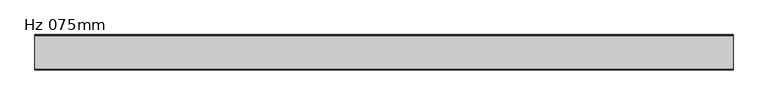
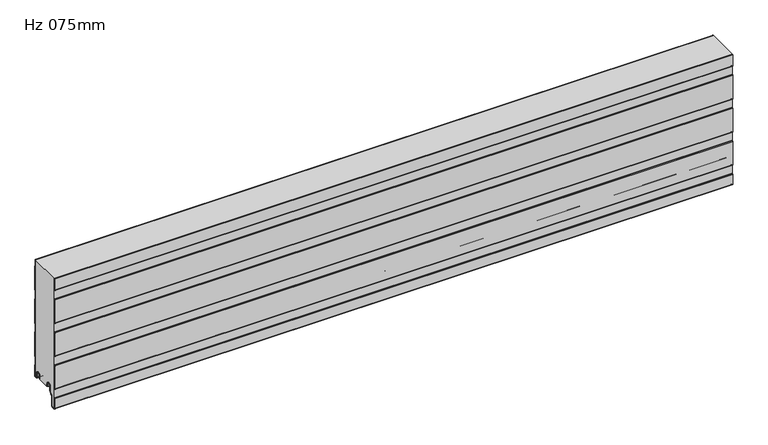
"""IFC4 building model written with IfcOpenShell, lengths in millimetres: plate geometry, KIP-MEX-KSS-1067-R19-CP-Hz-SL_SL : Hz 075mm."""

from ifc_helpers import new_model, si_unit, point, frame, frame_2d, origin, place, context, project, spatial, polyline, circle_curve, trimmed, segment, composite_curve, outline, extrude, source, transform, mapped, element, save
from ifc_brep_helpers import plane_surface, cylinder_surface, revolved_surface, advanced_brep


def hz_075mm_a357266a(model_context):
    return source(origin(), model_context, "Body", "SolidModel", [
        advanced_brep(
        [(-740.0, -17.0015159, 2.0313088), (-740.0, -18.0015191, 1.0313116), (-740.0, -19.0015105, 2.0313088), (-740.0, -19.0015105, 6.0315125), (-740.0, -18.0015159, 6.0315125), (-740.0, -18.0015159, 8.7237223), (-740.0, -14.7015202, 12.023718), (-740.0, -10.301529, 12.023718), (-740.0, -7.0015335, 8.7237225), (-740.0, -7.0015335, -1.6962564), (-740.0, -5.2315393, -3.4662506), (-740.0, -0.9999916, -3.4662506), (-740.0, -0.9999916, 21.034026), (-740.0, -2.2002307, 22.4196686), (-740.0, -2.2002307, 41.7948349), (-740.0, -1.0, 43.1804679), (-740.0, -1.0, 97.2338833), (-740.0, -2.2002307, 98.6195162), (-740.0, -2.2002307, 117.9946825), (-740.0, -1.0, 119.3803155), (-740.0, -1.0, 173.4337309), (-740.0, -2.2002307, 174.8193638), (-740.0, -2.2002307, 194.1945301), (-740.0, -1.0, 195.5801631), (-740.0, -1.0, 249.6335785), (-740.0, -2.2002307, 251.0192114), (-740.0, -2.2002307, 266.0), (-740.0, -1.2002307, 266.0), (-740.0, -1.2002307, 251.3920919), (-740.0, -0.3417885, 250.4010442), (-740.0, 0.0, 249.4844273), (-740.0, 0.0, 195.7293142), (-740.0, -0.3417885, 194.8126973), (-740.0, -1.2002307, 193.8216497), (-740.0, -1.2002307, 175.1922443), (-740.0, -0.3417885, 174.2011966), (-740.0, 0.0, 173.2845797), (-740.0, 0.0, 119.5294666), (-740.0, -0.3417885, 118.6128497), (-740.0, -1.2002307, 117.6218021), (-740.0, -1.2002307, 98.9923967), (-740.0, -0.3417885, 98.001349), (-740.0, 0.0, 97.0847321), (-740.0, 0.0, 43.329619), (-740.0, -0.3417885, 42.4130021), (-740.0, -1.2002307, 41.4219545), (-740.0, -1.2002307, 22.7925491), (-740.0, -0.3417885, 21.8015014), (-740.0, 0.0, 20.8847931), (-740.0, 8.4e-06, -3.0662545), (-740.0, -1.3999878, -4.4662506), (-740.0, -5.2315393, -4.4662506), (-740.0, -8.0015335, -1.6962564), (-740.0, -8.0015335, 8.7237225), (-740.0, -10.301529, 11.023718), (-740.0, -14.7015202, 11.023718), (-740.0, -17.0015159, 8.7237223), (740.0, -17.0015159, 2.0313088), (740.0, -17.0015159, 8.7237223), (740.0, -14.7015202, 11.023718), (740.0, -10.301529, 11.023718), (740.0, -8.0015335, 8.7237225), (740.0, -8.0015335, -1.6962564), (740.0, -5.2315393, -4.4662506), (740.0, -1.3999878, -4.4662506), (740.0, 8.4e-06, -3.0662545), (740.0, 8.4e-06, 20.8848845), (740.0, -0.3417885, 21.8015014), (740.0, -1.2002307, 22.7925491), (740.0, -1.2002307, 41.4219545), (740.0, -0.3417885, 42.4130021), (740.0, 0.0, 43.329619), (740.0, 0.0, 97.0847321), (740.0, -0.3417885, 98.001349), (740.0, -1.2002307, 98.9923967), (740.0, -1.2002307, 117.6218021), (740.0, -0.3417885, 118.6128497), (740.0, 0.0, 119.5294666), (740.0, 0.0, 173.2845797), (740.0, -0.3417885, 174.2011966), (740.0, -1.2002307, 175.1922443), (740.0, -1.2002307, 193.8216497), (740.0, -0.3417885, 194.8126973), (740.0, 0.0, 195.7293142), (740.0, 0.0, 249.4844273), (740.0, -0.3417885, 250.4010442), (740.0, -1.2002307, 251.3920919), (740.0, -1.2002307, 266.0), (740.0, -2.2002307, 266.0), (740.0, -2.2002307, 251.0192114), (740.0, -1.0, 249.6335785), (740.0, -1.0, 195.5801631), (740.0, -2.2002307, 194.1945301), (740.0, -2.2002307, 174.8193638), (740.0, -1.0, 173.4337309), (740.0, -1.0, 119.3803155), (740.0, -2.2002307, 117.9946825), (740.0, -2.2002307, 98.6195162), (740.0, -1.0, 97.2338833), (740.0, -1.0, 43.1804679), (740.0, -2.2002307, 41.7948349), (740.0, -2.2002307, 22.4196686), (740.0, -0.9999916, 21.034026), (740.0, -0.9999916, -3.4662506), (740.0, -5.2315393, -3.4662506), (740.0, -7.0015335, -1.6962564), (740.0, -7.0015335, 8.7237225), (740.0, -10.301529, 12.023718), (740.0, -14.7015202, 12.023718), (740.0, -18.0015159, 8.7237223), (740.0, -18.0015159, 6.0315125), (740.0, -19.0015105, 6.0315125), (740.0, -19.0015105, 2.0313088), (740.0, -18.0015192, 1.0313116)],
        [
            (0, 1, circle_curve(frame((-740.0, -18.0015132, 2.0313088), z_axis=(-1.0, 0.0, 0.0), x_axis=(0.0, 0.0, 1.0)), 0.9999973)),
            (1, 2, circle_curve(frame((-740.0, -18.0015133, 2.0313088), z_axis=(-1.0, 0.0, 0.0), x_axis=(0.0, 0.0, 1.0)), 0.9999972)),
            (2, 3),
            (3, 4),
            (4, 5),
            (5, 6, circle_curve(frame((-740.0, -14.7015202, 8.7237223), z_axis=(-1.0, 0.0, 0.0), x_axis=(0.0, 0.0, 1.0)), 3.2999957)),
            (6, 7),
            (7, 8, circle_curve(frame((-740.0, -10.301529, 8.7237225), z_axis=(-1.0, 0.0, 0.0), x_axis=(0.0, 0.0, 1.0)), 3.2999955)),
            (8, 9),
            (9, 10, circle_curve(frame((-740.0, -5.2315393, -1.6962564), z_axis=(1.0, 0.0, 0.0), x_axis=(0.0, 0.0, 1.0)), 1.7699942)),
            (10, 11),
            (11, 12),
            (12, 13),
            (13, 14),
            (14, 15),
            (15, 16),
            (16, 17),
            (17, 18),
            (18, 19),
            (19, 20),
            (20, 21),
            (21, 22),
            (22, 23),
            (23, 24),
            (24, 25),
            (25, 26),
            (26, 27),
            (27, 28),
            (28, 29),
            (29, 30, circle_curve(frame((-740.0, -1.3999972, 249.4844273), z_axis=(-1.0, 0.0, 0.0), x_axis=(0.0, 0.0, 1.0)), 1.3999972)),
            (30, 31),
            (31, 32, circle_curve(frame((-740.0, -1.3999972, 195.7293142), z_axis=(-1.0, 0.0, 0.0), x_axis=(0.0, 0.0, 1.0)), 1.3999972)),
            (32, 33),
            (33, 34),
            (34, 35),
            (35, 36, circle_curve(frame((-740.0, -1.3999972, 173.2845797), z_axis=(-1.0, 0.0, 0.0), x_axis=(0.0, 0.0, 1.0)), 1.3999972)),
            (36, 37),
            (37, 38, circle_curve(frame((-740.0, -1.3999972, 119.5294666), z_axis=(-1.0, 0.0, 0.0), x_axis=(0.0, 0.0, 1.0)), 1.3999972)),
            (38, 39),
            (39, 40),
            (40, 41),
            (41, 42, circle_curve(frame((-740.0, -1.3999972, 97.0847321), z_axis=(-1.0, 0.0, 0.0), x_axis=(0.0, 0.0, 1.0)), 1.3999972)),
            (42, 43),
            (43, 44, circle_curve(frame((-740.0, -1.3999972, 43.329619), z_axis=(-1.0, 0.0, 0.0), x_axis=(0.0, 0.0, 1.0)), 1.3999972)),
            (44, 45),
            (45, 46),
            (46, 47),
            (47, 48, circle_curve(frame((-740.0, -1.3999972, 20.8848845), z_axis=(-1.0, 0.0, 0.0), x_axis=(0.0, 0.0, 1.0)), 1.3999972)),
            (48, 49),
            (49, 50, circle_curve(frame((-740.0, -1.3999878, -3.0662545), z_axis=(-1.0, 0.0, 0.0), x_axis=(0.0, 0.0, 1.0)), 1.3999962)),
            (50, 51),
            (51, 52, circle_curve(frame((-740.0, -5.2315393, -1.6962564), z_axis=(-1.0, 0.0, 0.0), x_axis=(0.0, 0.0, 1.0)), 2.7699942)),
            (52, 53),
            (53, 54, circle_curve(frame((-740.0, -10.301529, 8.7237225), z_axis=(1.0, 0.0, 0.0), x_axis=(0.0, 0.0, 1.0)), 2.2999955)),
            (54, 55),
            (55, 56, circle_curve(frame((-740.0, -14.7015202, 8.7237223), z_axis=(1.0, 0.0, 0.0), x_axis=(0.0, 0.0, 1.0)), 2.2999957)),
            (56, 0),
            (57, 58),
            (58, 59, circle_curve(frame((740.0, -14.7015202, 8.7237223), z_axis=(-1.0, 0.0, 0.0), x_axis=(0.0, 0.0, 1.0)), 2.2999957)),
            (59, 60),
            (60, 61, circle_curve(frame((740.0, -10.301529, 8.7237225), z_axis=(-1.0, 0.0, 0.0), x_axis=(0.0, 0.0, 1.0)), 2.2999955)),
            (61, 62),
            (62, 63, circle_curve(frame((740.0, -5.2315393, -1.6962564), z_axis=(1.0, 0.0, 0.0), x_axis=(0.0, 0.0, 1.0)), 2.7699942)),
            (63, 64),
            (64, 65, circle_curve(frame((740.0, -1.3999878, -3.0662545), z_axis=(1.0, 0.0, 0.0), x_axis=(0.0, 0.0, 1.0)), 1.3999962)),
            (65, 66),
            (66, 67, circle_curve(frame((740.0, -1.3999972, 20.8848845), z_axis=(1.0, 0.0, 0.0), x_axis=(0.0, 0.0, 1.0)), 1.3999972)),
            (67, 68),
            (68, 69),
            (69, 70),
            (70, 71, circle_curve(frame((740.0, -1.3999972, 43.329619), z_axis=(1.0, 0.0, 0.0), x_axis=(0.0, 0.0, 1.0)), 1.3999972)),
            (71, 72),
            (72, 73, circle_curve(frame((740.0, -1.3999972, 97.0847321), z_axis=(1.0, 0.0, 0.0), x_axis=(0.0, 0.0, 1.0)), 1.3999972)),
            (73, 74),
            (74, 75),
            (75, 76),
            (76, 77, circle_curve(frame((740.0, -1.3999972, 119.5294666), z_axis=(1.0, 0.0, 0.0), x_axis=(0.0, 0.0, 1.0)), 1.3999972)),
            (77, 78),
            (78, 79, circle_curve(frame((740.0, -1.3999972, 173.2845797), z_axis=(1.0, 0.0, 0.0), x_axis=(0.0, 0.0, 1.0)), 1.3999972)),
            (79, 80),
            (80, 81),
            (81, 82),
            (82, 83, circle_curve(frame((740.0, -1.3999972, 195.7293142), z_axis=(1.0, 0.0, 0.0), x_axis=(0.0, 0.0, 1.0)), 1.3999972)),
            (83, 84),
            (84, 85, circle_curve(frame((740.0, -1.3999972, 249.4844273), z_axis=(1.0, 0.0, 0.0), x_axis=(0.0, 0.0, 1.0)), 1.3999972)),
            (85, 86),
            (86, 87),
            (87, 88),
            (88, 89),
            (89, 90),
            (90, 91),
            (91, 92),
            (92, 93),
            (93, 94),
            (94, 95),
            (95, 96),
            (96, 97),
            (97, 98),
            (98, 99),
            (99, 100),
            (100, 101),
            (101, 102),
            (102, 103),
            (103, 104),
            (104, 105, circle_curve(frame((740.0, -5.2315393, -1.6962564), z_axis=(-1.0, 0.0, 0.0), x_axis=(0.0, 0.0, 1.0)), 1.7699942)),
            (105, 106),
            (106, 107, circle_curve(frame((740.0, -10.301529, 8.7237225), z_axis=(1.0, 0.0, 0.0), x_axis=(0.0, 0.0, 1.0)), 3.2999955)),
            (107, 108),
            (108, 109, circle_curve(frame((740.0, -14.7015202, 8.7237223), z_axis=(1.0, 0.0, 0.0), x_axis=(0.0, 0.0, 1.0)), 3.2999957)),
            (109, 110),
            (110, 111),
            (111, 112),
            (112, 113, circle_curve(frame((740.0, -18.0015133, 2.0313088), z_axis=(1.0, 0.0, 0.0), x_axis=(0.0, 0.0, 1.0)), 0.9999972)),
            (113, 57, circle_curve(frame((740.0, -18.0015132, 2.0313088), z_axis=(1.0, 0.0, 0.0), x_axis=(0.0, 0.0, 1.0)), 0.9999973)),
            (56, 58),
            (57, 0),
            (55, 59),
            (54, 60),
            (53, 61),
            (52, 62),
            (51, 63),
            (50, 64),
            (49, 65),
            (48, 66),
            (47, 67),
            (46, 68),
            (45, 69),
            (44, 70),
            (43, 71),
            (42, 72),
            (41, 73),
            (40, 74),
            (39, 75),
            (38, 76),
            (37, 77),
            (36, 78),
            (35, 79),
            (34, 80),
            (33, 81),
            (32, 82),
            (31, 83),
            (30, 84),
            (29, 85),
            (28, 86),
            (27, 87),
            (88, 26),
            (25, 89),
            (24, 90),
            (23, 91),
            (22, 92),
            (21, 93),
            (20, 94),
            (19, 95),
            (18, 96),
            (17, 97),
            (16, 98),
            (15, 99),
            (14, 100),
            (13, 101),
            (12, 102),
            (11, 103),
            (10, 104),
            (9, 105),
            (8, 106),
            (7, 107),
            (6, 108),
            (5, 109),
            (4, 110),
            (3, 111),
            (2, 112),
            (1, 113),
        ],
        [
            plane_surface(frame((-740.0, 0.0, 533.4), z_axis=(-1.0, 0.0, 0.0), x_axis=(0.0, 1.0, 0.0))),
            plane_surface(frame((740.0, 0.0, 533.4), z_axis=(1.0, 0.0, 0.0), x_axis=(0.0, 1.0, 0.0))),
            plane_surface(frame((-740.0, -17.0015159, 2.0313088), z_axis=(0.0, 1.0, 0.0), x_axis=(1.0, 0.0, 0.0))),
            revolved_surface(polyline([(740.0, -14.7015202, 11.023718), (-740.0, -14.7015202, 11.023718)]), (-740.0, -14.7015202, 8.7237223), (1.0, 0.0, 0.0)),
            plane_surface(frame((-740.0, -14.7015202, 11.023718), z_axis=(0.0, 0.0, -1.0), x_axis=(1.0, 0.0, 0.0))),
            revolved_surface(polyline([(740.0, -10.301529, 11.023717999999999), (-740.0, -10.301529, 11.023717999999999)]), (-740.0, -10.301529, 8.7237225), (1.0, 0.0, 0.0)),
            plane_surface(frame((-740.0, -8.0015335, 8.7237225), z_axis=(0.0, -1.0, 0.0), x_axis=(1.0, 0.0, 0.0))),
            cylinder_surface(frame((-740.0, -5.2315393, -1.6962564), z_axis=(-1.0, 0.0, 0.0), x_axis=(0.0, 0.0, 1.0)), 2.7699942),
            plane_surface(frame((-740.0, -5.2315393, -4.4662506), z_axis=(0.0, 0.0, -1.0), x_axis=(1.0, 0.0, 0.0))),
            cylinder_surface(frame((-740.0, -1.3999878, -3.0662545), z_axis=(-1.0, 0.0, 0.0), x_axis=(0.0, 0.0, 1.0)), 1.3999962),
            plane_surface(frame((-740.0, 8.4e-06, -3.0662545), z_axis=(0.0, 1.0, 0.0), x_axis=(1.0, 0.0, 0.0))),
            cylinder_surface(frame((-740.0, -1.3999972, 20.8848845), z_axis=(-1.0, 0.0, 0.0), x_axis=(0.0, 0.0, 1.0)), 1.3999972),
            plane_surface(frame((-740.0, -0.3417885, 21.8015014), z_axis=(0.0, 0.755864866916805, 0.6547276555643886), x_axis=(1.0, 0.0, 0.0))),
            plane_surface(frame((-740.0, -1.2002307, 32.1072518), z_axis=(0.0, 1.0, 0.0), x_axis=(1.0, 0.0, 0.0))),
            plane_surface(frame((-740.0, -1.2002307, 41.4219545), z_axis=(0.0, 0.755864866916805, -0.6547276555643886), x_axis=(1.0, 0.0, 0.0))),
            cylinder_surface(frame((-740.0, -1.3999972, 43.329619), z_axis=(-1.0, 0.0, 0.0), x_axis=(0.0, 0.0, 1.0)), 1.3999972),
            plane_surface(frame((-740.0, 0.0, 43.329619), z_axis=(0.0, 1.0, 0.0), x_axis=(1.0, 0.0, 0.0))),
            cylinder_surface(frame((-740.0, -1.3999972, 97.0847321), z_axis=(-1.0, 0.0, 0.0), x_axis=(0.0, 0.0, 1.0)), 1.3999972),
            plane_surface(frame((-740.0, -0.3417885, 98.001349), z_axis=(0.0, 0.755864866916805, 0.6547276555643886), x_axis=(1.0, 0.0, 0.0))),
            plane_surface(frame((-740.0, -1.2002307, 108.3070994), z_axis=(0.0, 1.0, 0.0), x_axis=(1.0, 0.0, 0.0))),
            plane_surface(frame((-740.0, -1.2002307, 117.6218021), z_axis=(0.0, 0.755864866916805, -0.6547276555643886), x_axis=(1.0, 0.0, 0.0))),
            cylinder_surface(frame((-740.0, -1.3999972, 119.5294666), z_axis=(-1.0, 0.0, 0.0), x_axis=(0.0, 0.0, 1.0)), 1.3999972),
            plane_surface(frame((-740.0, 0.0, 119.5294666), z_axis=(0.0, 1.0, 0.0), x_axis=(1.0, 0.0, 0.0))),
            cylinder_surface(frame((-740.0, -1.3999972, 173.2845797), z_axis=(-1.0, 0.0, 0.0), x_axis=(0.0, 0.0, 1.0)), 1.3999972),
            plane_surface(frame((-740.0, -0.3417885, 174.2011966), z_axis=(0.0, 0.755864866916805, 0.6547276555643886), x_axis=(1.0, 0.0, 0.0))),
            plane_surface(frame((-740.0, -1.2002307, 184.506947), z_axis=(0.0, 1.0, 0.0), x_axis=(1.0, 0.0, 0.0))),
            plane_surface(frame((-740.0, -1.2002307, 193.8216497), z_axis=(0.0, 0.755864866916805, -0.6547276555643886), x_axis=(1.0, 0.0, 0.0))),
            cylinder_surface(frame((-740.0, -1.3999972, 195.7293142), z_axis=(-1.0, 0.0, 0.0), x_axis=(0.0, 0.0, 1.0)), 1.3999972),
            plane_surface(frame((-740.0, 0.0, 195.7293142), z_axis=(0.0, 1.0, 0.0), x_axis=(1.0, 0.0, 0.0))),
            cylinder_surface(frame((-740.0, -1.3999972, 249.4844273), z_axis=(-1.0, 0.0, 0.0), x_axis=(0.0, 0.0, 1.0)), 1.3999972),
            plane_surface(frame((-740.0, -0.3417885, 250.4010442), z_axis=(0.0, 0.755864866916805, 0.6547276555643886), x_axis=(1.0, 0.0, 0.0))),
            plane_surface(frame((-740.0, -1.2002307, 260.7067946), z_axis=(0.0, 1.0, 0.0), x_axis=(1.0, 0.0, 0.0))),
            plane_surface(frame((-740.0, -2.2002307, 270.3943777), z_axis=(0.0, -1.0, 0.0), x_axis=(1.0, 0.0, 0.0))),
            plane_surface(frame((-740.0, -2.2002307, 251.0192114), z_axis=(0.0, -0.755864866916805, -0.6547276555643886), x_axis=(1.0, 0.0, 0.0))),
            plane_surface(frame((-740.0, -1.0, 249.6335785), z_axis=(0.0, -1.0, 0.0), x_axis=(1.0, 0.0, 0.0))),
            plane_surface(frame((-740.0, -1.0, 195.5801631), z_axis=(0.0, -0.755864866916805, 0.6547276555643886), x_axis=(1.0, 0.0, 0.0))),
            plane_surface(frame((-740.0, -2.2002307, 194.1945301), z_axis=(0.0, -1.0, 0.0), x_axis=(1.0, 0.0, 0.0))),
            plane_surface(frame((-740.0, -2.2002307, 174.8193638), z_axis=(0.0, -0.755864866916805, -0.6547276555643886), x_axis=(1.0, 0.0, 0.0))),
            plane_surface(frame((-740.0, -1.0, 173.4337309), z_axis=(0.0, -1.0, 0.0), x_axis=(1.0, 0.0, 0.0))),
            plane_surface(frame((-740.0, -1.0, 119.3803155), z_axis=(0.0, -0.755864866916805, 0.6547276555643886), x_axis=(1.0, 0.0, 0.0))),
            plane_surface(frame((-740.0, -2.2002307, 117.9946825), z_axis=(0.0, -1.0, 0.0), x_axis=(1.0, 0.0, 0.0))),
            plane_surface(frame((-740.0, -2.2002307, 98.6195162), z_axis=(0.0, -0.755864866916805, -0.6547276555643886), x_axis=(1.0, 0.0, 0.0))),
            plane_surface(frame((-740.0, -1.0, 97.2338833), z_axis=(0.0, -1.0, 0.0), x_axis=(1.0, 0.0, 0.0))),
            plane_surface(frame((-740.0, -1.0, 43.1804679), z_axis=(0.0, -0.755864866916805, 0.6547276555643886), x_axis=(1.0, 0.0, 0.0))),
            plane_surface(frame((-740.0, -2.2002307, 41.7948349), z_axis=(0.0, -1.0, 0.0), x_axis=(1.0, 0.0, 0.0))),
            plane_surface(frame((-740.0, -2.2002307, 22.4196686), z_axis=(0.0, -0.755864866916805, -0.6547276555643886), x_axis=(1.0, 0.0, 0.0))),
            plane_surface(frame((-740.0, -0.9999916, 21.034026), z_axis=(0.0, -1.0, 0.0), x_axis=(1.0, 0.0, 0.0))),
            plane_surface(frame((-740.0, -0.9999916, -3.4662506), z_axis=(0.0, 0.0, 1.0), x_axis=(1.0, 0.0, 0.0))),
            revolved_surface(polyline([(740.0, -5.2315393, 0.07373779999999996), (-740.0, -5.2315393, 0.07373779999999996)]), (-740.0, -5.2315393, -1.6962564), (1.0, 0.0, 0.0)),
            plane_surface(frame((-740.0, -7.0015335, -1.6962564), z_axis=(0.0, 1.0, 0.0), x_axis=(1.0, 0.0, 0.0))),
            cylinder_surface(frame((-740.0, -10.301529, 8.7237225), z_axis=(-1.0, 0.0, 0.0), x_axis=(0.0, 0.0, 1.0)), 3.2999955),
            plane_surface(frame((-740.0, -10.301529, 12.023718), z_axis=(0.0, 0.0, 1.0), x_axis=(1.0, 0.0, 0.0))),
            cylinder_surface(frame((-740.0, -14.7015202, 8.7237223), z_axis=(-1.0, 0.0, 0.0), x_axis=(0.0, 0.0, 1.0)), 3.2999957),
            plane_surface(frame((-740.0, -18.0015159, 8.7237223), z_axis=(0.0, -1.0, 0.0), x_axis=(1.0, 0.0, 0.0))),
            plane_surface(frame((-740.0, -18.0015159, 6.0315125), z_axis=(0.0, 0.0, 1.0), x_axis=(1.0, 0.0, 0.0))),
            plane_surface(frame((-740.0, -19.0015105, 6.0315125), z_axis=(0.0, -1.0, 0.0), x_axis=(1.0, 0.0, 0.0))),
            cylinder_surface(frame((-740.0, -18.0015133, 2.0313088), z_axis=(-1.0, 0.0, 0.0), x_axis=(0.0, 0.0, 1.0)), 0.9999972),
            cylinder_surface(frame((-740.0, -18.0015132, 2.0313088), z_axis=(-1.0, 0.0, 0.0), x_axis=(0.0, 0.0, 1.0)), 0.9999973),
            plane_surface(frame((740.0, 10.0, 266.0), z_axis=(0.0, 0.0, 1.0), x_axis=(-1.0, 0.0, 0.0))),
        ],
        [
            (0, [[1, 2, 3, 4, 5, 6, 7, 8, 9, 10, 11, 12, 13, 14, 15, 16, 17, 18, 19, 20, 21, 22, 23, 24, 25, 26, 27, 28, 29, 30, 31, 32, 33, 34, 35, 36, 37, 38, 39, 40, 41, 42, 43, 44, 45, 46, 47, 48, 49, 50, 51, 52, 53, 54, 55, 56, 57]]),
            (1, [[58, 59, 60, 61, 62, 63, 64, 65, 66, 67, 68, 69, 70, 71, 72, 73, 74, 75, 76, 77, 78, 79, 80, 81, 82, 83, 84, 85, 86, 87, 88, 89, 90, 91, 92, 93, 94, 95, 96, 97, 98, 99, 100, 101, 102, 103, 104, 105, 106, 107, 108, 109, 110, 111, 112, 113, 114]]),
            (2, [[115, -58, 116, -57]]),
            (3, [[117, -59, -115, -56]]),
            (4, [[118, -60, -117, -55]]),
            (5, [[119, -61, -118, -54]]),
            (6, [[120, -62, -119, -53]]),
            (7, [[121, -63, -120, -52]]),
            (8, [[122, -64, -121, -51]]),
            (9, [[123, -65, -122, -50]]),
            (10, [[124, -66, -123, -49]]),
            (11, [[125, -67, -124, -48]]),
            (12, [[126, -68, -125, -47]]),
            (13, [[127, -69, -126, -46]]),
            (14, [[128, -70, -127, -45]]),
            (15, [[129, -71, -128, -44]]),
            (16, [[130, -72, -129, -43]]),
            (17, [[131, -73, -130, -42]]),
            (18, [[132, -74, -131, -41]]),
            (19, [[133, -75, -132, -40]]),
            (20, [[134, -76, -133, -39]]),
            (21, [[135, -77, -134, -38]]),
            (22, [[136, -78, -135, -37]]),
            (23, [[137, -79, -136, -36]]),
            (24, [[138, -80, -137, -35]]),
            (25, [[139, -81, -138, -34]]),
            (26, [[140, -82, -139, -33]]),
            (27, [[141, -83, -140, -32]]),
            (28, [[142, -84, -141, -31]]),
            (29, [[143, -85, -142, -30]]),
            (30, [[144, -86, -143, -29]]),
            (31, [[-28, 145, -87, -144]]),
            (32, [[-89, 146, -26, 147]]),
            (33, [[148, -90, -147, -25]]),
            (34, [[149, -91, -148, -24]]),
            (35, [[150, -92, -149, -23]]),
            (36, [[151, -93, -150, -22]]),
            (37, [[152, -94, -151, -21]]),
            (38, [[153, -95, -152, -20]]),
            (39, [[154, -96, -153, -19]]),
            (40, [[155, -97, -154, -18]]),
            (41, [[156, -98, -155, -17]]),
            (42, [[157, -99, -156, -16]]),
            (43, [[158, -100, -157, -15]]),
            (44, [[159, -101, -158, -14]]),
            (45, [[160, -102, -159, -13]]),
            (46, [[161, -103, -160, -12]]),
            (47, [[162, -104, -161, -11]]),
            (48, [[163, -105, -162, -10]]),
            (49, [[164, -106, -163, -9]]),
            (50, [[165, -107, -164, -8]]),
            (51, [[166, -108, -165, -7]]),
            (52, [[167, -109, -166, -6]]),
            (53, [[168, -110, -167, -5]]),
            (54, [[169, -111, -168, -4]]),
            (55, [[170, -112, -169, -3]]),
            (56, [[171, -113, -170, -2]]),
            (57, [[-116, -114, -171, -1]]),
            (58, [[-146, -88, -145, -27]]),
        ],
    ),
        extrude(outline(composite_curve([segment(trimmed(circle_curve(frame_2d((-73.6007733, -10.6415934)), 1.3998661), [point((-75.0006394, -10.6415934))], [point((-74.5333971, -9.5976403))], False, "CARTESIAN"), True, "CONTINUOUS"), segment(polyline([(-74.5333971, -9.5976403), (-73.8006709, -8.8649141), (-73.8006709, 10.0260713), (-74.5336365, 10.7590369)]), True, "CONTINUOUS"), segment(trimmed(circle_curve(frame_2d((-73.6009253, 11.8030877)), 1.3999972), [point((-74.5336365, 10.7590369))], [point((-75.0009016, 11.810741))], False, "CARTESIAN"), True, "CONTINUOUS"), segment(polyline([(-75.0009016, 11.810741), (-75.0009016, 65.5582542)]), True, "CONTINUOUS"), segment(trimmed(circle_curve(frame_2d((-73.6009044, 65.5582542)), 1.3999972), [point((-75.0009016, 65.5582542))], [point((-74.5336156, 66.602305))], False, "CARTESIAN"), True, "CONTINUOUS"), segment(polyline([(-74.5336156, 66.602305), (-73.8006709, 67.3352497), (-73.8006709, 86.2259189), (-74.5336365, 86.9588845)]), True, "CONTINUOUS"), segment(trimmed(circle_curve(frame_2d((-73.6009253, 88.0029353)), 1.3999972), [point((-74.5336365, 86.9588845))], [point((-75.0009016, 88.0105886))], False, "CARTESIAN"), True, "CONTINUOUS"), segment(polyline([(-75.0009016, 88.0105886), (-75.0009016, 141.7581018)]), True, "CONTINUOUS"), segment(trimmed(circle_curve(frame_2d((-73.6009044, 141.7581018)), 1.3999972), [point((-75.0009016, 141.7581018))], [point((-74.5336156, 142.8021526))], False, "CARTESIAN"), True, "CONTINUOUS"), segment(polyline([(-74.5336156, 142.8021526), (-73.8006709, 143.5350973), (-73.8006709, 162.4257665), (-74.5336365, 163.1587321)]), True, "CONTINUOUS"), segment(trimmed(circle_curve(frame_2d((-73.6009253, 164.2027829)), 1.3999972), [point((-74.5336365, 163.1587321))], [point((-75.0009016, 164.2104362))], False, "CARTESIAN"), True, "CONTINUOUS"), segment(polyline([(-75.0009016, 164.2104362), (-75.0009016, 217.9579494)]), True, "CONTINUOUS"), segment(trimmed(circle_curve(frame_2d((-73.6009044, 217.9579494)), 1.3999972), [point((-75.0009016, 217.9579494))], [point((-74.5336156, 219.0020002))], False, "CARTESIAN"), True, "CONTINUOUS"), segment(polyline([(-74.5336156, 219.0020002), (-73.8006709, 219.7349449), (-73.8006709, 238.6256141), (-74.5336365, 239.3585797)]), True, "CONTINUOUS"), segment(trimmed(circle_curve(frame_2d((-73.6009253, 240.4026305)), 1.3999972), [point((-74.5336365, 239.3585797))], [point((-75.0009016, 240.4102838))], False, "CARTESIAN"), True, "CONTINUOUS"), segment(polyline([(-75.0009016, 240.4102838), (-75.0009016, 266.0), (-74.0009016, 266.0), (-74.0009016, 240.2405326), (-72.8006709, 239.0403019), (-72.8006709, 219.3208894), (-74.0009016, 218.1206587), (-74.0009016, 164.0405269), (-72.8006709, 162.8402962), (-72.8006709, 143.1208837), (-74.0009016, 141.920653), (-74.0009016, 87.8405213), (-72.8006709, 86.6402905), (-72.8006709, 66.920878), (-74.0009016, 65.7206473), (-74.0009016, 11.6405156), (-72.8006709, 10.4402849), (-72.8006709, -9.2791277), (-74.0006394, -10.4790962), (-74.0006394, -32.4521176)]), True, "CONTINUOUS"), segment(trimmed(circle_curve(frame_2d((-71.4304001, -32.4521176)), 2.5702393), [point((-74.0006394, -32.4521176))], [point((-71.2063145, -35.0125699))], True, "CARTESIAN"), True, "CONTINUOUS"), segment(polyline([(-71.2063145, -35.0125699), (-66.2244936, -34.5765709)]), True, "CONTINUOUS"), segment(trimmed(circle_curve(frame_2d((-66.7058842, -31.9198392)), 2.6999926), [point((-66.2244936, -34.5765709))], [point((-64.0058916, -31.9198392))], True, "CARTESIAN"), True, "CONTINUOUS"), segment(polyline([(-64.0058916, -31.9198392), (-64.0058916, -9.8247096), (-58.5038205, -4.3226385)]), True, "CONTINUOUS"), segment(trimmed(circle_curve(frame_2d((-59.7058982, -3.1205608)), 1.6999946), [point((-58.5038205, -4.3226385))], [point((-58.0059036, -3.1205608))], True, "CARTESIAN"), True, "CONTINUOUS"), segment(polyline([(-58.0059036, -3.1205608), (-58.0059036, 8.6903283)]), True, "CONTINUOUS"), segment(trimmed(circle_curve(frame_2d((-54.6559083, 8.6903283)), 3.3499953), [point((-58.0059036, 8.6903283))], [point((-54.6559083, 12.0403236))], False, "CARTESIAN"), True, "CONTINUOUS"), segment(polyline([(-54.6559083, 12.0403236), (-50.2559171, 12.0403236)]), True, "CONTINUOUS"), segment(trimmed(circle_curve(frame_2d((-50.2559171, 8.6903283)), 3.3499953), [point((-50.2559171, 12.0403236))], [point((-46.9059218, 8.6903283))], False, "CARTESIAN"), True, "CONTINUOUS"), segment(polyline([(-46.9059218, 8.6903283), (-46.9059218, 5.9912173), (-45.5074429, 5.9912173), (-45.5074429, 2.2328239)]), True, "CONTINUOUS"), segment(trimmed(circle_curve(frame_2d((-46.7074396, 2.2313092)), 1.1999976), [point((-45.5074429, 2.2328239))], [point((-46.6769177, 1.0316999))], False, "CARTESIAN"), True, "CONTINUOUS"), segment(trimmed(circle_curve(frame_2d((-46.7074396, 2.2313092)), 1.1999976), [point((-46.6769177, 1.0316999))], [point((-47.9059218, 2.1710221))], False, "CARTESIAN"), True, "CONTINUOUS"), segment(polyline([(-47.9059218, 2.1710221), (-47.9059218, 8.6903283)]), True, "CONTINUOUS"), segment(trimmed(circle_curve(frame_2d((-50.2559171, 8.6903283)), 2.3499953), [point((-47.9059218, 8.6903283))], [point((-50.2559171, 11.0403236))], True, "CARTESIAN"), True, "CONTINUOUS"), segment(polyline([(-50.2559171, 11.0403236), (-54.6559083, 11.0403236)]), True, "CONTINUOUS"), segment(trimmed(circle_curve(frame_2d((-54.6559083, 8.6903283)), 2.3499953), [point((-54.6559083, 11.0403236))], [point((-57.0059036, 8.6903283))], True, "CARTESIAN"), True, "CONTINUOUS"), segment(polyline([(-57.0059036, 8.6903283), (-57.0059036, -3.1205608)]), True, "CONTINUOUS"), segment(trimmed(circle_curve(frame_2d((-59.7058982, -3.1205608)), 2.6999946), [point((-57.0059036, -3.1205608))], [point((-57.7967137, -5.0297453))], False, "CARTESIAN"), True, "CONTINUOUS"), segment(polyline([(-57.7967137, -5.0297453), (-62.6251312, -9.8581627)]), True, "CONTINUOUS"), segment(trimmed(circle_curve(frame_2d((-61.7058942, -10.7773997)), 1.2999974), [point((-62.6251312, -9.8581627))], [point((-63.0058916, -10.7773997))], True, "CARTESIAN"), True, "CONTINUOUS"), segment(polyline([(-63.0058916, -10.7773997), (-63.0058916, -31.9198392)]), True, "CONTINUOUS"), segment(trimmed(circle_curve(frame_2d((-66.7058842, -31.9198392)), 3.6999926), [point((-63.0058916, -31.9198392))], [point((-66.0950831, -35.5690675))], False, "CARTESIAN"), True, "CONTINUOUS"), segment(polyline([(-66.0950831, -35.5690675), (-71.1191297, -36.008762)]), True, "CONTINUOUS"), segment(trimmed(circle_curve(frame_2d((-71.4304001, -32.4521176)), 3.5702393), [point((-71.1191297, -36.008762))], [point((-75.0006394, -32.4521176))], False, "CARTESIAN"), True, "CONTINUOUS"), segment(polyline([(-75.0006394, -32.4521176), (-75.0006394, -10.6415934)]), True, "CONTINUOUS")], self_intersect=False)), frame((-740.0, 0.0, 0.0), z_axis=(1.0, 0.0, 0.0), x_axis=(0.0, 1.0, 0.0)), (0.0, 0.0, 1.0), 1480.0),
        extrude(outline(composite_curve([segment(trimmed(circle_curve(frame_2d((-46.7013969, 2.2313092)), 1.1999976), [point((-46.670875, 1.0316999))], [point((-45.5014003, 2.2328239))], True, "CARTESIAN"), True, "CONTINUOUS"), segment(polyline([(-45.5014003, 2.2328239), (-45.5014003, 5.9912173), (-46.8998791, 5.9912173), (-46.8998791, 8.6903283)]), True, "CONTINUOUS"), segment(trimmed(circle_curve(frame_2d((-50.2498744, 8.6903283)), 3.3499953), [point((-46.8998791, 8.6903283))], [point((-50.2498744, 12.0403236))], True, "CARTESIAN"), True, "CONTINUOUS"), segment(polyline([(-50.2498744, 12.0403236), (-54.6498656, 12.0403236)]), True, "CONTINUOUS"), segment(trimmed(circle_curve(frame_2d((-54.6498656, 8.6903283)), 3.3499953), [point((-54.6498656, 12.0403236))], [point((-57.9998609, 8.6903283))], True, "CARTESIAN"), True, "CONTINUOUS"), segment(polyline([(-57.9998609, 8.6903283), (-57.9998609, -3.1205608)]), True, "CONTINUOUS"), segment(trimmed(circle_curve(frame_2d((-59.6998555, -3.1205608)), 1.6999946), [point((-57.9998609, -3.1205608))], [point((-58.4977778, -4.3226385))], False, "CARTESIAN"), True, "CONTINUOUS"), segment(polyline([(-58.4977778, -4.3226385), (-63.9998489, -9.8247096), (-63.9998489, -31.9198392)]), True, "CONTINUOUS"), segment(trimmed(circle_curve(frame_2d((-66.6998415, -31.9198392)), 2.6999926), [point((-63.9998489, -31.9198392))], [point((-66.2184509, -34.5765709))], False, "CARTESIAN"), True, "CONTINUOUS"), segment(polyline([(-66.2184509, -34.5765709), (-71.2002718, -35.0125699)]), True, "CONTINUOUS"), segment(trimmed(circle_curve(frame_2d((-71.4243575, -32.4521176)), 2.5702393), [point((-71.2002718, -35.0125699))], [point((-73.9945967, -32.4521176))], False, "CARTESIAN"), True, "CONTINUOUS"), segment(polyline([(-73.9945967, -32.4521176), (-73.9945967, -10.4790962), (-72.7946282, -9.2791277), (-72.7946282, 10.4402849), (-73.9948589, 11.6405156), (-73.9948589, 65.7206473), (-72.7946282, 66.920878), (-72.7946282, 86.6402905), (-73.9948589, 87.8405213), (-73.9948589, 141.920653), (-72.7946282, 143.1208837), (-72.7946282, 162.8402962), (-73.9948589, 164.0405269), (-73.9948589, 218.1206587), (-72.7946282, 219.3208894), (-72.7946282, 239.0403019), (-73.9948589, 240.2405326), (-73.9948589, 266.0), (-2.2002307, 266.0), (-2.2002307, 251.0192115), (-1.0, 249.6335785), (-1.0, 195.5801631), (-2.2002307, 194.1945302), (-2.2002307, 174.8193639), (-1.0, 173.4337309), (-1.0, 119.3803155), (-2.2002307, 117.9946826), (-2.2002307, 98.6195163), (-1.0, 97.2338833), (-1.0, 43.1804679), (-2.2002307, 41.794835), (-2.2002307, 22.4196687), (-0.9999916, 21.034026), (-0.9999916, -3.4662506), (-5.2315389, -3.4662506)]), True, "CONTINUOUS"), segment(trimmed(circle_curve(frame_2d((-5.2315389, -1.6962564)), 1.7699942), [point((-5.2315389, -3.4662506))], [point((-7.0015331, -1.6962564))], False, "CARTESIAN"), True, "CONTINUOUS"), segment(polyline([(-7.0015331, -1.6962564), (-7.0015331, 8.7237222)]), True, "CONTINUOUS"), segment(trimmed(circle_curve(frame_2d((-10.301529, 8.7237222)), 3.2999959), [point((-7.0015331, 8.7237222))], [point((-10.301529, 12.023718))], True, "CARTESIAN"), True, "CONTINUOUS"), segment(polyline([(-10.301529, 12.023718), (-14.7015202, 12.023718)]), True, "CONTINUOUS"), segment(trimmed(circle_curve(frame_2d((-14.7015202, 8.7237223)), 3.2999957), [point((-14.7015202, 12.023718))], [point((-18.0015159, 8.7237223))], True, "CARTESIAN"), True, "CONTINUOUS"), segment(polyline([(-18.0015159, 8.7237223), (-18.0015159, 6.0315125), (-19.0015105, 6.0315125), (-19.0015105, 2.0313089)]), True, "CONTINUOUS"), segment(trimmed(circle_curve(frame_2d((-18.0015133, 2.0313089)), 0.9999972), [point((-19.0015105, 2.0313089))], [point((-18.0015192, 1.0313117))], True, "CARTESIAN"), True, "CONTINUOUS"), segment(polyline([(-18.0015192, 1.0313117), (-19.0328308, 0.0), (-45.6391751, 0.0), (-46.670875, 1.0316999)]), True, "CONTINUOUS")], self_intersect=False)), frame((-740.0, 0.0, 0.0), z_axis=(1.0, 0.0, 0.0), x_axis=(0.0, 1.0, 0.0)), (0.0, 0.0, 1.0), 1480.0),
    ])


if __name__ == "__main__":
    model = new_model("IFC4")
    model_context = context("Model", 3, world=origin())
    ifc_project = project(units=[si_unit("LENGTHUNIT", "METRE", prefix="MILLI")], contexts=[model_context])
    site = spatial("IfcSite", under=ifc_project)
    building = spatial("IfcBuilding", under=site)
    placement = place(None, origin())
    hz_075mm_shape = hz_075mm_a357266a(model_context)
    element("IfcPlate", 1, ObjectType="KIP-MEX-KSS-1067-R19-CP-Hz-SL_SL : Hz 075mm", at=placement, inside=building, context=model_context, shape_type="MappedRepresentation", body=[
        mapped(hz_075mm_shape, transform((0.0, 0.0, 0.0), x_axis=(1.0, 0.0, 0.0), y_axis=(0.0, 1.0, 0.0), z_axis=(0.0, 0.0, 1.0))),
    ])
    save(model, "model.ifc")
